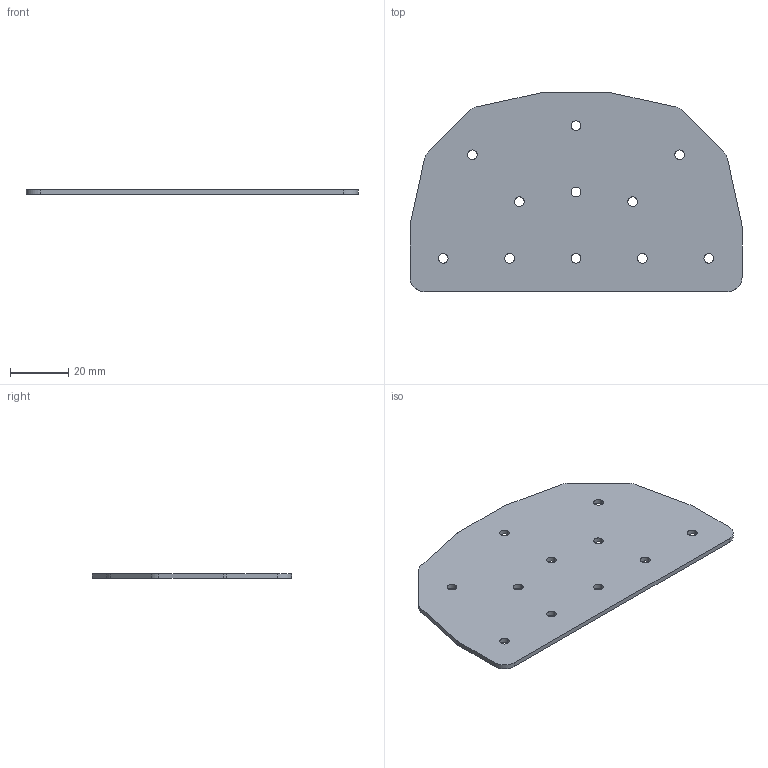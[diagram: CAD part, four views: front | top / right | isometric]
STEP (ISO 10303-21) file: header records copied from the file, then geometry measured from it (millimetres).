
FILE_DESCRIPTION (( 'STEP AP214' ), '1' );
FILE_NAME ('DRP-002-0002-03.step', '2010-06-23T19:05:45', ( '' ), ( '' ), 'SwSTEP 2.0', 'SolidWorks 2010', '' );
FILE_SCHEMA (( 'AUTOMOTIVE_DESIGN' ));
Length unit declared in the file: inch
Products named in the file (1): DRP-002-0002-03
Bounding box: 113.67 x 68.2 x 1.59 mm (x, y, z)
Volume: 10697.5 mm3; surface area: 14168.9 mm2
Topology: 1 solids, 1 shells, 44 faces, 126 edges, 84 vertices
Faces by surface type: cylinder 32, plane 12
Entity records: 1558 total; most frequent: DIRECTION 280, CARTESIAN_POINT 255, ORIENTED_EDGE 252, EDGE_CURVE 126, AXIS2_PLACEMENT_3D 109, VERTEX_POINT 84, EDGE_LOOP 66, CIRCLE 64
